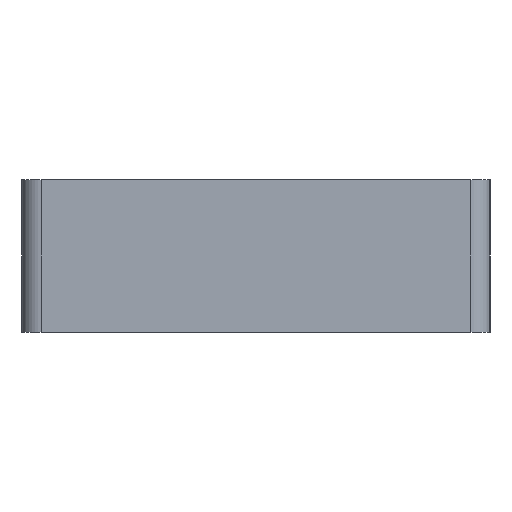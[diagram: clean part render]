
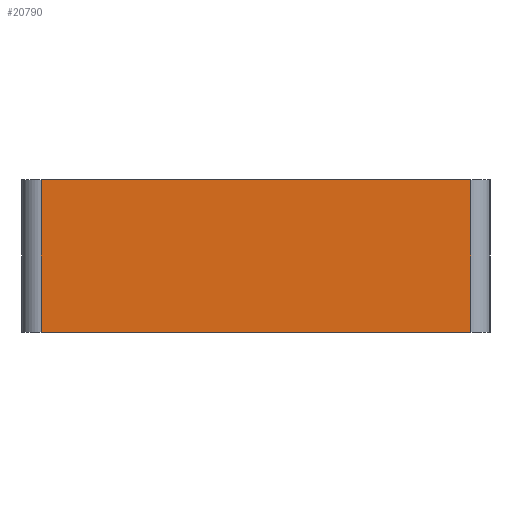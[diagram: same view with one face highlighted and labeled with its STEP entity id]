
A CAD part, left-side view. The second image highlights one B-rep face of the part: STEP entity #20790.
In plain terms, the highlighted planar face has unit normal (-1, 0, 0).
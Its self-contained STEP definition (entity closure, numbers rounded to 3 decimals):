
#552=FACE_OUTER_BOUND('',#2032,.T.);
#2032=EDGE_LOOP('',(#15883,#15884,#15885,#15886));
#3035=LINE('',#27864,#5983);
#4011=LINE('',#29830,#6959);
#4976=LINE('',#31760,#7924);
#4977=LINE('',#31762,#7925);
#5983=VECTOR('',#22876,10.);
#6959=VECTOR('',#23878,10.);
#7924=VECTOR('',#24851,10.);
#7925=VECTOR('',#24854,10.);
#8931=VERTEX_POINT('',#27861);
#8932=VERTEX_POINT('',#27863);
#9908=VERTEX_POINT('',#29827);
#9909=VERTEX_POINT('',#29829);
#10919=EDGE_CURVE('',#8931,#8932,#3035,.T.);
#11902=EDGE_CURVE('',#9908,#9909,#4011,.T.);
#12868=EDGE_CURVE('',#9909,#8931,#4976,.T.);
#12869=EDGE_CURVE('',#8932,#9908,#4977,.T.);
#15883=ORIENTED_EDGE('',*,*,#12868,.F.);
#15884=ORIENTED_EDGE('',*,*,#11902,.F.);
#15885=ORIENTED_EDGE('',*,*,#12869,.F.);
#15886=ORIENTED_EDGE('',*,*,#10919,.F.);
#19794=PLANE('',#21821);
#20790=ADVANCED_FACE('',(#552),#19794,.T.);
#21821=AXIS2_PLACEMENT_3D('',#31761,#24852,#24853);
#22876=DIRECTION('',(0.,1.,0.));
#23878=DIRECTION('',(0.,-1.,0.));
#24851=DIRECTION('',(0.,0.,-1.));
#24852=DIRECTION('center_axis',(-1.,0.,0.));
#24853=DIRECTION('ref_axis',(0.,1.,0.));
#24854=DIRECTION('',(0.,0.,1.));
#27861=CARTESIAN_POINT('',(-83.5,-11.31,-6.));
#27863=CARTESIAN_POINT('',(-83.5,11.31,-6.));
#27864=CARTESIAN_POINT('',(-83.5,-12.31,-6.));
#29827=CARTESIAN_POINT('',(-83.5,11.31,2.));
#29829=CARTESIAN_POINT('',(-83.5,-11.31,2.));
#29830=CARTESIAN_POINT('',(-83.5,-12.31,2.));
#31760=CARTESIAN_POINT('',(-83.5,-11.31,0.));
#31761=CARTESIAN_POINT('Origin',(-83.5,-12.31,0.));
#31762=CARTESIAN_POINT('',(-83.5,11.31,0.));
